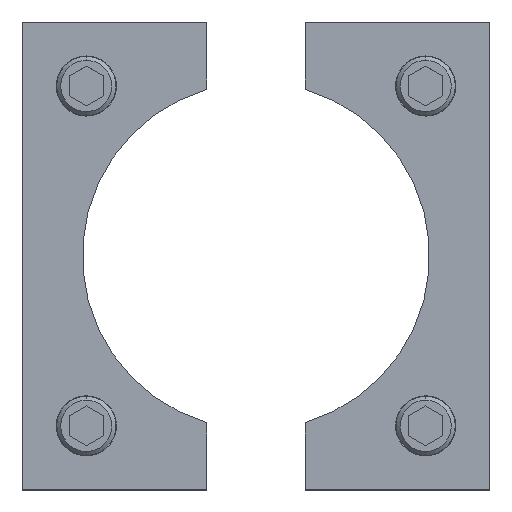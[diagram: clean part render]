
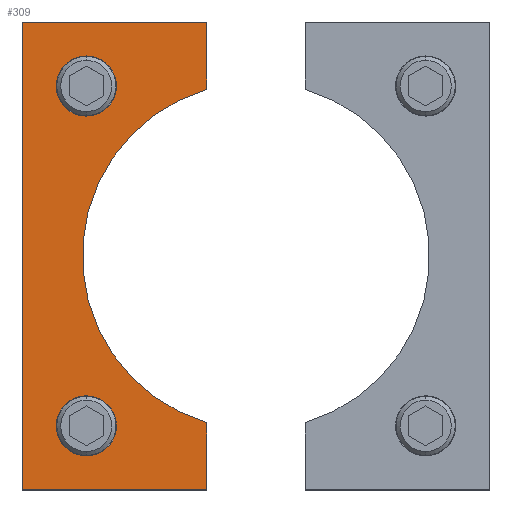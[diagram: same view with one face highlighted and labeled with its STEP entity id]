
A CAD part, top view. The second image highlights one B-rep face of the part: STEP entity #309.
In plain terms, the highlighted planar face has unit normal (0, 0, 1).
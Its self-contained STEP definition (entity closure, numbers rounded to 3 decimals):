
#175=FACE_BOUND('',#645,.T.);
#176=FACE_BOUND('',#646,.T.);
#177=FACE_BOUND('',#647,.T.);
#203=CIRCLE('',#2306,70.5);
#204=CIRCLE('',#2307,9.);
#205=CIRCLE('',#2308,9.);
#206=CIRCLE('',#2309,9.);
#207=CIRCLE('',#2310,9.);
#309=ADVANCED_FACE('',(#175,#176,#177),#445,.T.);
#445=PLANE('',#2311);
#645=EDGE_LOOP('',(#804,#805,#806,#807,#808,#809,#810,#811));
#646=EDGE_LOOP('',(#812,#813));
#647=EDGE_LOOP('',(#814,#815));
#804=ORIENTED_EDGE('',*,*,#1607,.T.);
#805=ORIENTED_EDGE('',*,*,#1608,.T.);
#806=ORIENTED_EDGE('',*,*,#1609,.T.);
#807=ORIENTED_EDGE('',*,*,#1600,.T.);
#808=ORIENTED_EDGE('',*,*,#1605,.T.);
#809=ORIENTED_EDGE('',*,*,#1610,.T.);
#810=ORIENTED_EDGE('',*,*,#1611,.T.);
#811=ORIENTED_EDGE('',*,*,#1612,.T.);
#812=ORIENTED_EDGE('',*,*,#1613,.T.);
#813=ORIENTED_EDGE('',*,*,#1614,.T.);
#814=ORIENTED_EDGE('',*,*,#1615,.T.);
#815=ORIENTED_EDGE('',*,*,#1616,.T.);
#1404=VERTEX_POINT('',#3229);
#1405=VERTEX_POINT('',#3231);
#1409=VERTEX_POINT('',#3240);
#1410=VERTEX_POINT('',#3245);
#1411=VERTEX_POINT('',#3246);
#1412=VERTEX_POINT('',#3248);
#1413=VERTEX_POINT('',#3251);
#1414=VERTEX_POINT('',#3253);
#1415=VERTEX_POINT('',#3256);
#1416=VERTEX_POINT('',#3257);
#1417=VERTEX_POINT('',#3260);
#1418=VERTEX_POINT('',#3261);
#1600=EDGE_CURVE('',#1405,#1404,#1904,.T.);
#1605=EDGE_CURVE('',#1404,#1409,#1909,.T.);
#1607=EDGE_CURVE('',#1410,#1411,#1911,.T.);
#1608=EDGE_CURVE('',#1411,#1412,#203,.T.);
#1609=EDGE_CURVE('',#1412,#1405,#1912,.T.);
#1610=EDGE_CURVE('',#1409,#1413,#1913,.T.);
#1611=EDGE_CURVE('',#1413,#1414,#1914,.T.);
#1612=EDGE_CURVE('',#1414,#1410,#1915,.T.);
#1613=EDGE_CURVE('',#1415,#1416,#204,.T.);
#1614=EDGE_CURVE('',#1416,#1415,#205,.T.);
#1615=EDGE_CURVE('',#1417,#1418,#206,.T.);
#1616=EDGE_CURVE('',#1418,#1417,#207,.T.);
#1904=LINE('',#3230,#2104);
#1909=LINE('',#3241,#2109);
#1911=LINE('',#3244,#2111);
#1912=LINE('',#3249,#2112);
#1913=LINE('',#3250,#2113);
#1914=LINE('',#3252,#2114);
#1915=LINE('',#3254,#2115);
#2104=VECTOR('',#2547,1.);
#2109=VECTOR('',#2554,1.);
#2111=VECTOR('',#2558,1.);
#2112=VECTOR('',#2561,1.);
#2113=VECTOR('',#2562,1.);
#2114=VECTOR('',#2563,1.);
#2115=VECTOR('',#2564,1.);
#2306=AXIS2_PLACEMENT_3D('',#3247,#2559,#2560);
#2307=AXIS2_PLACEMENT_3D('',#3255,#2565,#2566);
#2308=AXIS2_PLACEMENT_3D('',#3258,#2567,#2568);
#2309=AXIS2_PLACEMENT_3D('',#3259,#2569,#2570);
#2310=AXIS2_PLACEMENT_3D('',#3262,#2571,#2572);
#2311=AXIS2_PLACEMENT_3D('',#3263,#2573,#2574);
#2547=DIRECTION('',(0.,1.,0.));
#2554=DIRECTION('',(-1.,0.,0.));
#2558=DIRECTION('',(0.,1.,0.));
#2559=DIRECTION('',(0.,0.,-1.));
#2560=DIRECTION('',(1.,0.,0.));
#2561=DIRECTION('',(0.,1.,0.));
#2562=DIRECTION('',(0.,-1.,0.));
#2563=DIRECTION('',(1.,0.,0.));
#2564=DIRECTION('',(0.,1.,0.));
#2565=DIRECTION('',(0.,0.,-1.));
#2566=DIRECTION('',(-1.,0.,0.));
#2567=DIRECTION('',(0.,0.,-1.));
#2568=DIRECTION('',(1.,0.,0.));
#2569=DIRECTION('',(0.,0.,-1.));
#2570=DIRECTION('',(-1.,0.,0.));
#2571=DIRECTION('',(0.,0.,-1.));
#2572=DIRECTION('',(1.,0.,0.));
#2573=DIRECTION('',(0.,0.,1.));
#2574=DIRECTION('',(0.,1.,0.));
#3229=CARTESIAN_POINT('',(-20.,95.,12.));
#3230=CARTESIAN_POINT('',(-20.,95.,12.));
#3231=CARTESIAN_POINT('',(-20.,72.284,12.));
#3240=CARTESIAN_POINT('',(-95.,95.,12.));
#3241=CARTESIAN_POINT('',(-20.,95.,12.));
#3244=CARTESIAN_POINT('',(-20.,-67.604,12.));
#3245=CARTESIAN_POINT('',(-20.,-72.284,12.));
#3246=CARTESIAN_POINT('',(-20.,-67.604,12.));
#3247=CARTESIAN_POINT('',(0.,0.,12.));
#3248=CARTESIAN_POINT('',(-20.,67.604,12.));
#3249=CARTESIAN_POINT('',(-20.,72.284,12.));
#3250=CARTESIAN_POINT('',(-95.,95.,12.));
#3251=CARTESIAN_POINT('',(-95.,-95.,12.));
#3252=CARTESIAN_POINT('',(-20.,-95.,12.));
#3253=CARTESIAN_POINT('',(-20.,-95.,12.));
#3254=CARTESIAN_POINT('',(-20.,-72.284,12.));
#3255=CARTESIAN_POINT('',(-68.886,-69.,12.));
#3256=CARTESIAN_POINT('',(-68.886,-60.,12.));
#3257=CARTESIAN_POINT('',(-68.886,-78.,12.));
#3258=CARTESIAN_POINT('',(-68.886,-69.,12.));
#3259=CARTESIAN_POINT('',(-68.886,69.,12.));
#3260=CARTESIAN_POINT('',(-68.886,78.,12.));
#3261=CARTESIAN_POINT('',(-68.886,60.,12.));
#3262=CARTESIAN_POINT('',(-68.886,69.,12.));
#3263=CARTESIAN_POINT('',(-20.,-72.284,12.));
